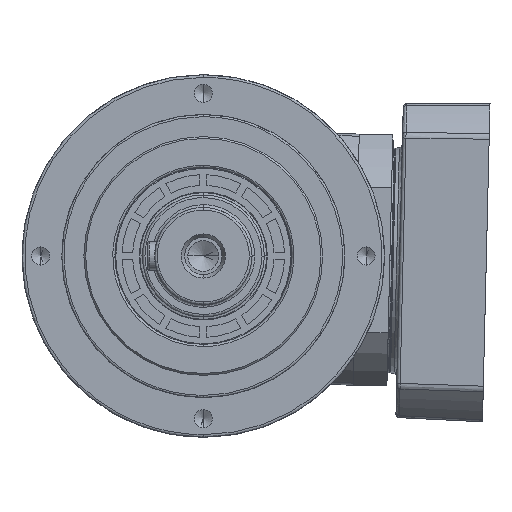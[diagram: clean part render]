
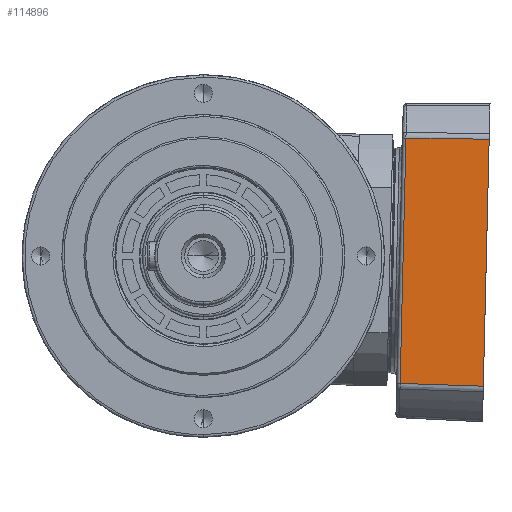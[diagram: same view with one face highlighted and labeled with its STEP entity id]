
A CAD part, left-side view. The second image highlights one B-rep face of the part: STEP entity #114896.
In plain terms, the highlighted planar face has unit normal (-1, 0.026, 0.001).
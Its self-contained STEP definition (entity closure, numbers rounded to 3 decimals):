
#1435 = DIRECTION ( 'NONE',  ( 0.001, 0., 1. ) ) ;
#7319 = EDGE_CURVE ( 'NONE', #24924, #86459, #149184, .T. ) ;
#22364 = CARTESIAN_POINT ( 'NONE',  ( -137.132, -144.334, 141.252 ) ) ;
#24749 = CARTESIAN_POINT ( 'NONE',  ( -136.311, -112.968, 141.7 ) ) ;
#24924 = VERTEX_POINT ( 'NONE', #118287 ) ;
#29147 = ORIENTED_EDGE ( 'NONE', *, *, #122468, .F. ) ;
#31047 = DIRECTION ( 'NONE',  ( 0., 0.024, -1. ) ) ;
#49541 = CARTESIAN_POINT ( 'NONE',  ( -136.311, -112.968, 141.7 ) ) ;
#50802 = B_SPLINE_CURVE_WITH_KNOTS ( 'NONE', 3,
 ( #75912, #152632, #116707, #63625 ),
 .UNSPECIFIED., .F., .F.,
 ( 4, 4 ),
 ( 0., 1. ),
 .UNSPECIFIED. ) ;
#51290 = PLANE ( 'NONE',  #93279 ) ;
#59961 = CARTESIAN_POINT ( 'NONE',  ( -137.543, -160.017, 141.029 ) ) ;
#62308 = CARTESIAN_POINT ( 'NONE',  ( -137.543, -160.017, 141.029 ) ) ;
#63625 = CARTESIAN_POINT ( 'NONE',  ( -136.311, -109.683, 2.981 ) ) ;
#65920 = CARTESIAN_POINT ( 'NONE',  ( -137.638, -160.319, 0.583 ) ) ;
#69806 = EDGE_CURVE ( 'NONE', #138796, #24924, #153262, .T. ) ;
#74856 = DIRECTION ( 'NONE',  ( 0., 0.024, -1. ) ) ;
#75570 = ORIENTED_EDGE ( 'NONE', *, *, #7319, .T. ) ;
#75912 = CARTESIAN_POINT ( 'NONE',  ( -137.543, -156.711, 1.424 ) ) ;
#76815 = VERTEX_POINT ( 'NONE', #151373 ) ;
#78994 = DIRECTION ( 'NONE',  ( -1., 0.026, 0.001 ) ) ;
#86459 = VERTEX_POINT ( 'NONE', #87412 ) ;
#87412 = CARTESIAN_POINT ( 'NONE',  ( -136.311, -109.683, 2.981 ) ) ;
#93127 = CARTESIAN_POINT ( 'NONE',  ( -137.543, -160.495, 161.201 ) ) ;
#93279 = AXIS2_PLACEMENT_3D ( 'NONE', #65920, #78994, #1435 ) ;
#98312 = CARTESIAN_POINT ( 'NONE',  ( -136.721, -128.651, 141.476 ) ) ;
#99180 = ORIENTED_EDGE ( 'NONE', *, *, #105487, .F. ) ;
#104908 = ORIENTED_EDGE ( 'NONE', *, *, #69806, .T. ) ;
#105487 = EDGE_CURVE ( 'NONE', #138796, #76815, #129907, .T. ) ;
#114896 = ADVANCED_FACE ( 'NONE', ( #152524 ), #51290, .T. ) ;
#116707 = CARTESIAN_POINT ( 'NONE',  ( -136.721, -125.353, 2.462 ) ) ;
#118287 = CARTESIAN_POINT ( 'NONE',  ( -136.311, -112.968, 141.7 ) ) ;
#122468 = EDGE_CURVE ( 'NONE', #76815, #86459, #50802, .T. ) ;
#129907 = LINE ( 'NONE', #93127, #155754 ) ;
#134207 = EDGE_LOOP ( 'NONE', ( #75570, #29147, #99180, #104908 ) ) ;
#138796 = VERTEX_POINT ( 'NONE', #62308 ) ;
#142892 = VECTOR ( 'NONE', #74856, 1000. ) ;
#149184 = LINE ( 'NONE', #49541, #142892 ) ;
#151373 = CARTESIAN_POINT ( 'NONE',  ( -137.543, -156.711, 1.424 ) ) ;
#152524 = FACE_OUTER_BOUND ( 'NONE', #134207, .T. ) ;
#152632 = CARTESIAN_POINT ( 'NONE',  ( -137.132, -141.03, 1.943 ) ) ;
#153262 = B_SPLINE_CURVE_WITH_KNOTS ( 'NONE', 3,
 ( #59961, #22364, #98312, #24749 ),
 .UNSPECIFIED., .F., .F.,
 ( 4, 4 ),
 ( 0., 1. ),
 .UNSPECIFIED. ) ;
#155754 = VECTOR ( 'NONE', #31047, 1000. ) ;
